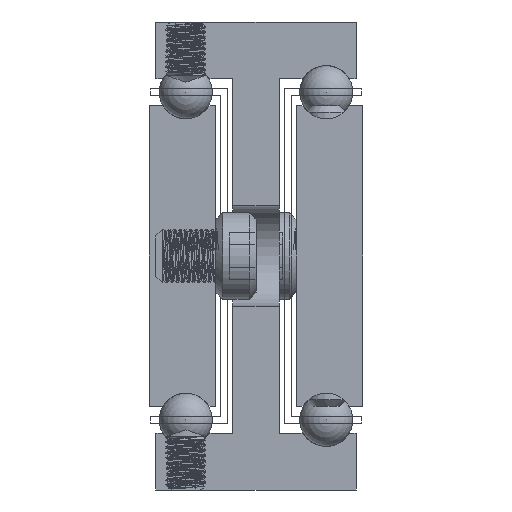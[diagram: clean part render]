
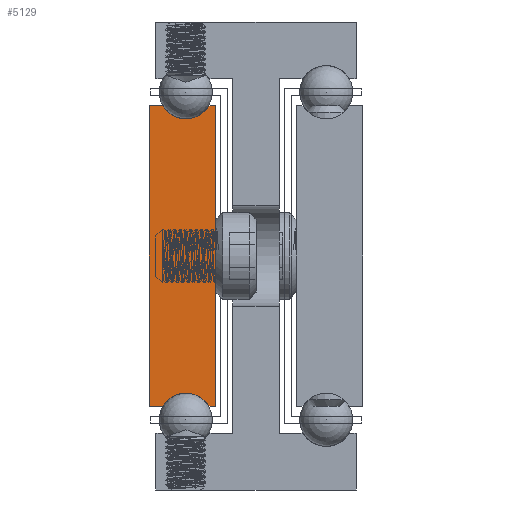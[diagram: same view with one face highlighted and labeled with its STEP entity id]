
A CAD part, front view. The second image highlights one B-rep face of the part: STEP entity #5129.
In plain terms, the highlighted planar face has unit normal (0, -1, 0).
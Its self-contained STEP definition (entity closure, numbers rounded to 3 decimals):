
#667=CIRCLE('',#5532,4.);
#669=CIRCLE('',#5538,4.);
#1061=FACE_OUTER_BOUND('',#1381,.T.);
#1381=EDGE_LOOP('',(#4004,#4005,#4006,#4007,#4008,#4009,#4010,#4011));
#1902=LINE('',#7822,#2198);
#1905=LINE('',#7828,#2201);
#1909=LINE('',#7840,#2205);
#1912=LINE('',#7846,#2208);
#1915=LINE('',#7852,#2211);
#1919=LINE('',#7862,#2215);
#2198=VECTOR('',#6296,1.);
#2201=VECTOR('',#6301,1.);
#2205=VECTOR('',#6313,1.);
#2208=VECTOR('',#6318,1.);
#2211=VECTOR('',#6323,1.);
#2215=VECTOR('',#6335,1.);
#2502=VERTEX_POINT('',#7819);
#2503=VERTEX_POINT('',#7821);
#2505=VERTEX_POINT('',#7827);
#2507=VERTEX_POINT('',#7833);
#2509=VERTEX_POINT('',#7839);
#2511=VERTEX_POINT('',#7845);
#2513=VERTEX_POINT('',#7851);
#2515=VERTEX_POINT('',#7857);
#3164=EDGE_CURVE('',#2503,#2502,#1902,.T.);
#3167=EDGE_CURVE('',#2505,#2503,#1905,.T.);
#3170=EDGE_CURVE('',#2507,#2505,#667,.T.);
#3173=EDGE_CURVE('',#2509,#2507,#1909,.T.);
#3176=EDGE_CURVE('',#2511,#2509,#1912,.T.);
#3179=EDGE_CURVE('',#2513,#2511,#1915,.T.);
#3182=EDGE_CURVE('',#2515,#2513,#669,.T.);
#3185=EDGE_CURVE('',#2502,#2515,#1919,.T.);
#4004=ORIENTED_EDGE('',*,*,#3185,.T.);
#4005=ORIENTED_EDGE('',*,*,#3182,.T.);
#4006=ORIENTED_EDGE('',*,*,#3179,.T.);
#4007=ORIENTED_EDGE('',*,*,#3176,.T.);
#4008=ORIENTED_EDGE('',*,*,#3173,.T.);
#4009=ORIENTED_EDGE('',*,*,#3170,.T.);
#4010=ORIENTED_EDGE('',*,*,#3167,.T.);
#4011=ORIENTED_EDGE('',*,*,#3164,.T.);
#4983=PLANE('',#5541);
#5129=ADVANCED_FACE('',(#1061),#4983,.T.);
#5532=AXIS2_PLACEMENT_3D('',#7834,#6307,#6308);
#5538=AXIS2_PLACEMENT_3D('',#7858,#6329,#6330);
#5541=AXIS2_PLACEMENT_3D('',#7864,#6338,#6339);
#6296=DIRECTION('',(0.,0.,-1.));
#6301=DIRECTION('',(-1.,0.,0.));
#6307=DIRECTION('center_axis',(0.,1.,0.));
#6308=DIRECTION('ref_axis',(-0.866,0.,-0.5));
#6313=DIRECTION('',(-1.,0.,0.));
#6318=DIRECTION('',(0.,0.,1.));
#6323=DIRECTION('',(1.,0.,0.));
#6329=DIRECTION('center_axis',(0.,1.,0.));
#6330=DIRECTION('ref_axis',(0.866,0.,0.5));
#6335=DIRECTION('',(1.,0.,0.));
#6338=DIRECTION('center_axis',(0.,-1.,0.));
#6339=DIRECTION('ref_axis',(1.,0.,0.));
#7819=CARTESIAN_POINT('',(-3200.571,-1199.563,627.5));
#7821=CARTESIAN_POINT('',(-3200.571,-1199.563,672.5));
#7822=CARTESIAN_POINT('',(-3200.571,-1199.563,627.5));
#7827=CARTESIAN_POINT('',(-3198.535,-1199.563,672.5));
#7828=CARTESIAN_POINT('',(-3200.571,-1199.563,672.5));
#7833=CARTESIAN_POINT('',(-3191.606,-1199.563,672.5));
#7834=CARTESIAN_POINT('Origin',(-3195.071,-1199.563,674.5));
#7839=CARTESIAN_POINT('',(-3190.571,-1199.563,672.5));
#7840=CARTESIAN_POINT('',(-3191.606,-1199.563,672.5));
#7845=CARTESIAN_POINT('',(-3190.571,-1199.563,627.5));
#7846=CARTESIAN_POINT('',(-3190.571,-1199.563,672.5));
#7851=CARTESIAN_POINT('',(-3191.606,-1199.563,627.5));
#7852=CARTESIAN_POINT('',(-3190.571,-1199.563,627.5));
#7857=CARTESIAN_POINT('',(-3198.535,-1199.563,627.5));
#7858=CARTESIAN_POINT('Origin',(-3195.071,-1199.563,625.5));
#7862=CARTESIAN_POINT('',(-3198.535,-1199.563,627.5));
#7864=CARTESIAN_POINT('Origin',(-3195.576,-1199.563,650.));
